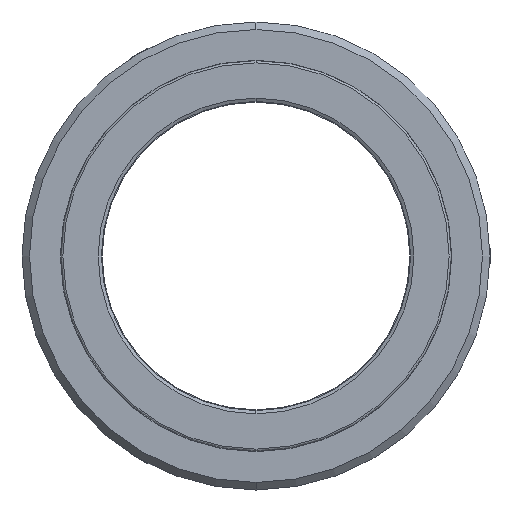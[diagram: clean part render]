
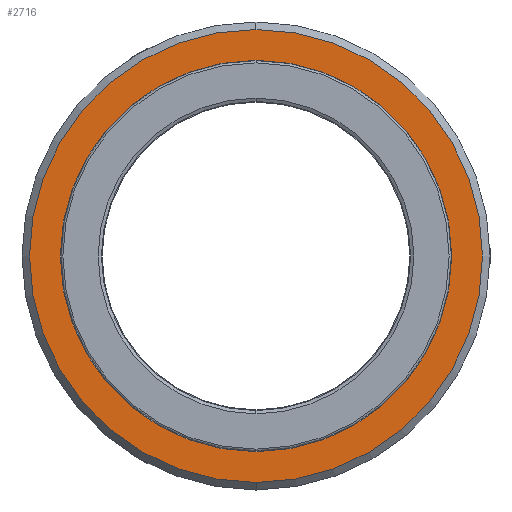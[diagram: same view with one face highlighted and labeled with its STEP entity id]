
A CAD part, front view. The second image highlights one B-rep face of the part: STEP entity #2716.
In plain terms, the highlighted planar face has unit normal (0, -1, 0).
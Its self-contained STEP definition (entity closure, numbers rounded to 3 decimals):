
#277 = ORIENTED_EDGE ( 'NONE', *, *, #938, .F. ) ;
#283 = ORIENTED_EDGE ( 'NONE', *, *, #4852, .F. ) ;
#286 = ORIENTED_EDGE ( 'NONE', *, *, #916, .T. ) ;
#287 = ORIENTED_EDGE ( 'NONE', *, *, #4854, .T. ) ;
#588 = EDGE_LOOP ( 'NONE', ( #287, #286 ) ) ;
#589 = EDGE_LOOP ( 'NONE', ( #283, #277 ) ) ;
#916 = EDGE_CURVE ( 'NONE', #4432, #4427, #1082, .T. ) ;
#938 = EDGE_CURVE ( 'NONE', #4437, #4438, #1070, .T. ) ;
#1065 = AXIS2_PLACEMENT_3D ( 'NONE', #3634, #3635, #3636 ) ;
#1070 = CIRCLE ( 'NONE', #1065, 26.035 ) ;
#1082 = CIRCLE ( 'NONE', #1084, 30.14 ) ;
#1084 = AXIS2_PLACEMENT_3D ( 'NONE', #3550, #3551, #3552 ) ;
#1437 = AXIS2_PLACEMENT_3D ( 'NONE', #3294, #3301, #3302 ) ;
#1927 = CARTESIAN_POINT ( 'NONE',  ( 0., 0., 30.14 ) ) ;
#1932 = CARTESIAN_POINT ( 'NONE',  ( 0., 0., -30.14 ) ) ;
#1937 = CARTESIAN_POINT ( 'NONE',  ( 0., 0., 26.035 ) ) ;
#1938 = CARTESIAN_POINT ( 'NONE',  ( 0., 0., -26.035 ) ) ;
#2070 = CARTESIAN_POINT ( 'NONE',  ( 0., 0., 0. ) ) ;
#2071 = DIRECTION ( 'NONE',  ( 0., -1., 0. ) ) ;
#2072 = DIRECTION ( 'NONE',  ( 0., 0., -1. ) ) ;
#2091 = CARTESIAN_POINT ( 'NONE',  ( 0., 0., 0. ) ) ;
#2092 = DIRECTION ( 'NONE',  ( 0., -1., 0. ) ) ;
#2093 = DIRECTION ( 'NONE',  ( 0., 0., -1. ) ) ;
#2716 = ADVANCED_FACE ( 'NONE', ( #3297, #3298 ), #3299, .T. ) ;
#3294 = CARTESIAN_POINT ( 'NONE',  ( 26.035, 0., 0. ) ) ;
#3297 = FACE_OUTER_BOUND ( 'NONE', #588, .T. ) ;
#3298 = FACE_BOUND ( 'NONE', #589, .T. ) ;
#3299 = PLANE ( 'NONE',  #1437 ) ;
#3301 = DIRECTION ( 'NONE',  ( 0., -1., 0. ) ) ;
#3302 = DIRECTION ( 'NONE',  ( 0., 0., -1. ) ) ;
#3550 = CARTESIAN_POINT ( 'NONE',  ( 0., 0., 0. ) ) ;
#3551 = DIRECTION ( 'NONE',  ( 0., -1., 0. ) ) ;
#3552 = DIRECTION ( 'NONE',  ( 0., 0., -1. ) ) ;
#3634 = CARTESIAN_POINT ( 'NONE',  ( 0., 0., 0. ) ) ;
#3635 = DIRECTION ( 'NONE',  ( 0., -1., 0. ) ) ;
#3636 = DIRECTION ( 'NONE',  ( 0., 0., -1. ) ) ;
#4036 = AXIS2_PLACEMENT_3D ( 'NONE', #2091, #2092, #2093 ) ;
#4037 = CIRCLE ( 'NONE', #4036, 30.14 ) ;
#4038 = AXIS2_PLACEMENT_3D ( 'NONE', #2070, #2071, #2072 ) ;
#4043 = CIRCLE ( 'NONE', #4038, 26.035 ) ;
#4427 = VERTEX_POINT ( 'NONE', #1927 ) ;
#4432 = VERTEX_POINT ( 'NONE', #1932 ) ;
#4437 = VERTEX_POINT ( 'NONE', #1937 ) ;
#4438 = VERTEX_POINT ( 'NONE', #1938 ) ;
#4852 = EDGE_CURVE ( 'NONE', #4438, #4437, #4043, .T. ) ;
#4854 = EDGE_CURVE ( 'NONE', #4427, #4432, #4037, .T. ) ;
